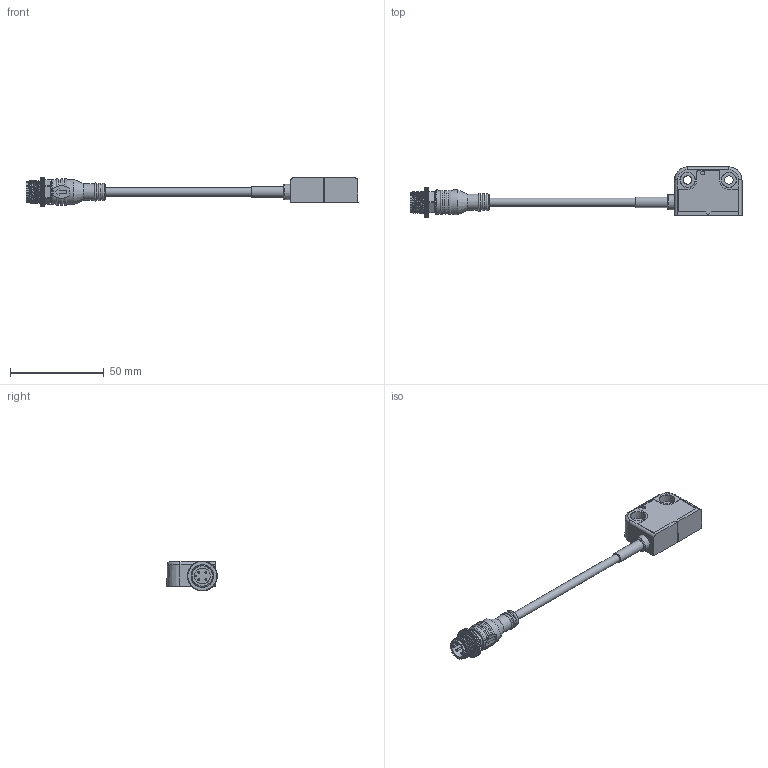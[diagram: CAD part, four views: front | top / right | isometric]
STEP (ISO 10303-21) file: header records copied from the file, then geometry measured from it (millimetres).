
FILE_DESCRIPTION(/* description */ (''),/* implementation_level */ '2;1');
FILE_NAME(/* name */ 'V:/a TO PERSON/Vilius/MC36/3D/Product_models/MC36CHxxxRT1L v1.step',/* time_stamp */ '2022-01-27T13:04:34+02:00',/* author */ (''),/* organization */ (''),/* preprocessor_version */ 'ST-DEVELOPER v18.1',/* originating_system */ 'Autodesk Translation Framework v10.10.0.1391',/* authorisation */ '');
FILE_SCHEMA (('AUTOMOTIVE_DESIGN { 1 0 10303 214 3 1 1 }'));
Length unit declared in the file: millimetre
Products named in the file (2): MC36CHxxxRT1L; _M12_pigtail.e7c0c495-f55b-43fc-9cd4-ada7be4faf41
Assembly tree (1 placements, depth 2):
  MC36CHxxxRT1L
    _M12_pigtail.e7c0c495-f55b-43fc-9cd4-ada7be4faf41
Bounding box: 176.85 x 26.79 x 15.8 mm (x, y, z)
Volume: 16060.1 mm3; surface area: 13500.8 mm2
Topology: 10 solids, 10 shells, 792 faces, 2236 edges, 1486 vertices
Faces by surface type: plane 399, cylinder 326, cone 43, torus 13, bspline 11
Full cylindrical faces by diameter (mm): 1 x4, 2 x2, 4.4 x2, 5.6 x1, 7.8 x1, 8 x2, 8.151 x2, 8.2 x2, 8.4 x1, 8.615 x1, 9.8 x2, 10.741 x5, 10.8 x1, 11.884 x6, 13.316 x2
Entity records: 27929 total; most frequent: CARTESIAN_POINT 6744, ORIENTED_EDGE 4472, DIRECTION 4461, EDGE_CURVE 2236, AXIS2_PLACEMENT_3D 1523, VERTEX_POINT 1486, LINE 1415, VECTOR 1415
